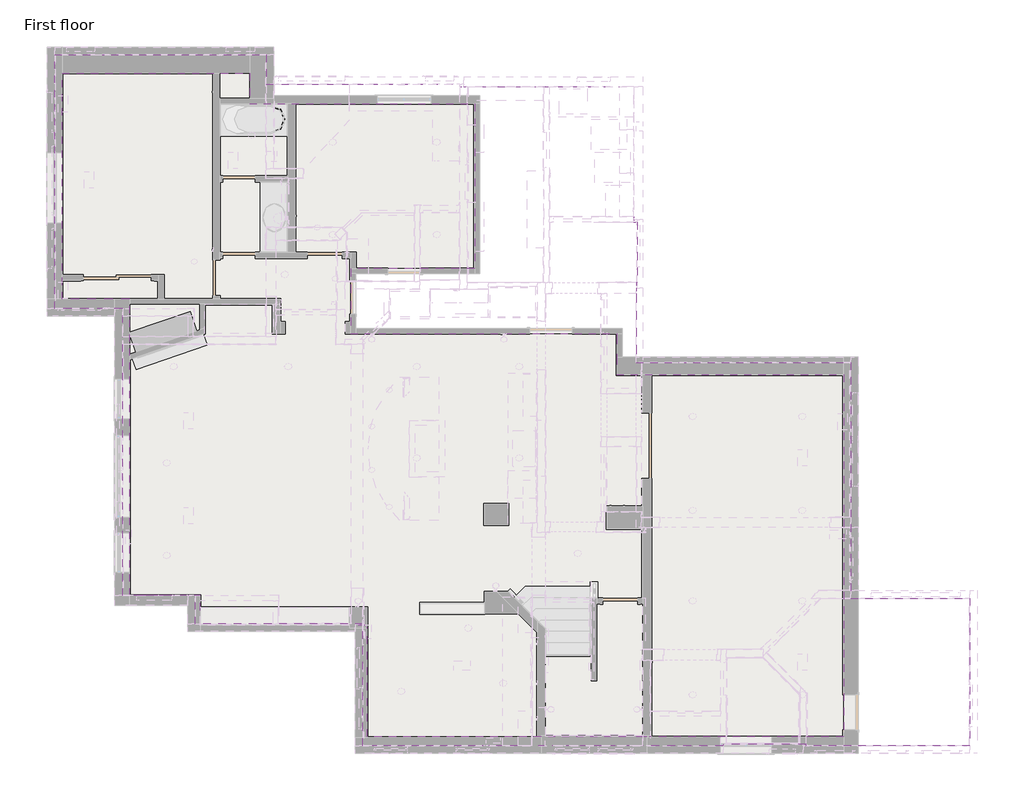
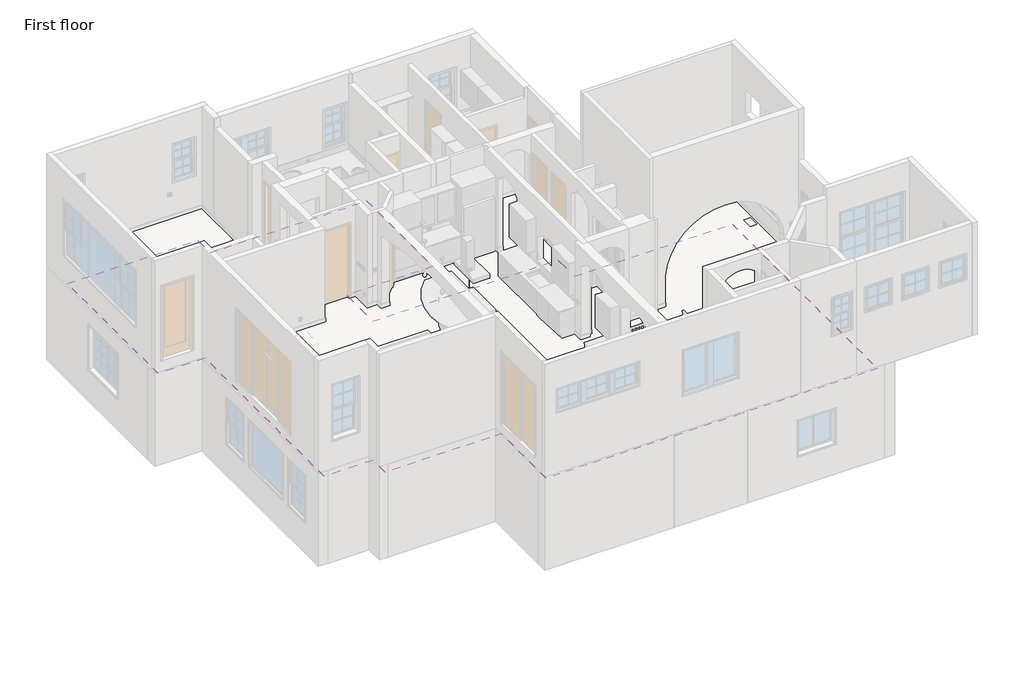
# One storey, part 9 of 14: 2 slabs, 1 covering.
"""IFC4 building model written with IfcOpenShell, lengths in millimetres."""

from ifc_helpers import new_model, si_unit, frame, origin, place, context, project, spatial, polyline, circle_curve, faceted_brep, element, save
from ifc_brep_helpers import plane_surface, revolved_surface, advanced_brep

model = new_model("IFC4")

# Units and contexts
model_context = context("Model", 3, world=origin())
ifc_project = project(units=[si_unit("LENGTHUNIT", "METRE", prefix="MILLI")], contexts=[model_context])

# Site, building, storey
site = spatial("IfcSite", under=ifc_project)
building = spatial("IfcBuilding", under=site)
storey = spatial("IfcBuildingStorey", under=building, Name="First floor", Elevation=0.0)

# Covering
placement = place(None, origin())
element("IfcCovering", 1, ObjectType="Ceiling_13.5\"", at=placement, inside=storey, context=model_context, shape_type="AdvancedBrep", body=[
    advanced_brep(
    [(-2279.65, 14058.9, 2908.3), (-2279.65, 14719.3, 2908.3), (-6337.3, 14719.3, 2908.3), (-6337.3, 9829.8, 2908.3), (-4876.8, 9829.8, 2908.3), (-4876.8, 3416.3, 2908.3), (-3352.8, 3416.3, 2908.3), (-3352.8, 2768.6, 2908.3), (-127.0, 2768.6, 2908.3), (254.0176056, 2768.6, 2908.3), (254.0176056, 2705.1, 2908.3), (254.0176056, 355.6, 2908.3), (4019.5496704, 355.6, 2908.3), (5841.9131509, 355.6, 2908.3), (6305.55, 355.6, 2908.3), (10553.7, 355.6, 2908.3), (10553.7, 8191.5, 2908.3), (5651.5, 8191.5, 2908.3), (5651.5, 9080.5, 2908.3), (-101.6, 9080.5, 2908.3), (-101.6, 10490.2, 2908.3), (2578.1, 10490.2, 2908.3), (2578.1, 14058.9, 2908.3), (4102.1, 381.0, 2908.3), (4102.1, 3721.1, 2908.3), (5092.7, 3721.1, 2908.3), (5092.7, 3352.8, 2908.3), (6210.3, 3352.8, 2908.3), (6210.3, 381.0, 2908.3), (-2279.65, 14719.3, 2565.4), (-2279.65, 14058.9, 2565.4), (2578.1, 14058.9, 2565.4), (2578.1, 10490.2, 2565.4), (-101.6, 10490.2, 2565.4), (-101.6, 9080.5, 2565.4), (5651.5, 9080.5, 2565.4), (5651.5, 8191.5, 2565.4), (10553.7, 8191.5, 2565.4), (10553.7, 355.6, 2565.4), (6400.8, 355.6, 2565.4), (6305.55, 355.6, 2565.4), (5841.9131509, 355.6, 2565.4), (4019.5496704, 355.6, 2565.4), (254.0176056, 355.6, 2565.4), (254.0176056, 2768.6, 2565.4), (-127.0, 2768.6, 2565.4), (-3352.8, 2768.6, 2565.4), (-3352.8, 3416.3, 2565.4), (-4876.8, 3416.3, 2565.4), (-4876.8, 9829.8, 2565.4), (-6337.3, 9829.8, 2565.4), (-6337.3, 14719.3, 2565.4), (9728.2, 7289.8266421, 2565.4), (9601.2, 7289.8266421, 2565.4), (9728.2, 5257.8266421, 2565.4), (9601.2, 5257.8266421, 2565.4), (9728.2, 3302.0266421, 2565.4), (9601.2, 3302.0266421, 2565.4), (9728.2, 1270.0266421, 2565.4), (9601.2, 1270.0266421, 2565.4), (7353.3, 7289.8266421, 2565.4), (7226.3, 7289.8266421, 2565.4), (7353.3, 5257.8266421, 2565.4), (7226.3, 5257.8266421, 2565.4), (7353.3, 3302.0266421, 2565.4), (7226.3, 3302.0266421, 2565.4), (7353.3, 1270.0266421, 2565.4), (7226.3, 1270.0266421, 2565.4), (4876.8, 4330.7, 2565.4), (4749.8, 4330.7, 2565.4), (3606.8, 6388.1, 2565.4), (3479.8, 6388.1, 2565.4), (1397.0, 6388.1, 2565.4), (1270.0, 6388.1, 2565.4), (3606.8, 8369.3, 2565.4), (3479.8, 8369.3, 2565.4), (1397.0, 8369.3, 2565.4), (1270.0, 8369.3, 2565.4), (-1390.65, 8369.3, 2565.4), (-1517.65, 8369.3, 2565.4), (-3860.8, 8369.3, 2565.4), (-3987.8, 8369.3, 2565.4), (-4013.2, 6286.5, 2565.4), (-4140.2, 6286.5, 2565.4), (-4013.2, 4279.9, 2565.4), (-4140.2, 4279.9, 2565.4), (2501.8996704, 2711.4620454, 2565.4), (2374.8996704, 2711.4620454, 2565.4), (3263.8996704, 1517.65, 2565.4), (3136.8996704, 1517.65, 2565.4), (1054.1176056, 1339.85, 2565.4), (927.1176056, 1339.85, 2565.4), (-1460.5, 10363.2, 2565.4), (-1587.5, 10363.2, 2565.4), (-419.1, 11226.8, 2565.4), (-546.1, 11226.8, 2565.4), (1828.8, 11226.8, 2565.4), (1701.8, 11226.8, 2565.4), (-419.1, 13220.7, 2565.4), (-546.1, 13220.7, 2565.4), (1828.8, 13220.7, 2565.4), (1701.8, 13220.7, 2565.4), (-2171.7, 13373.1, 2565.4), (-2298.7, 13373.1, 2565.4), (4102.1, 3721.1, 2565.4), (4102.1, 381.0, 2565.4), (6210.3, 381.0, 2565.4), (6210.3, 3352.8, 2565.4), (5092.7, 3352.8, 2565.4), (5092.7, 3721.1, 2565.4), (9601.2, 7289.8266421, 2603.5), (9728.2, 7289.8266421, 2603.5), (9601.2, 5257.8266421, 2603.5), (9728.2, 5257.8266421, 2603.5), (9601.2, 3302.0266421, 2603.5), (9728.2, 3302.0266421, 2603.5), (9601.2, 1270.0266421, 2603.5), (9728.2, 1270.0266421, 2603.5), (7226.3, 7289.8266421, 2603.5), (7353.3, 7289.8266421, 2603.5), (7226.3, 5257.8266421, 2603.5), (7353.3, 5257.8266421, 2603.5), (7226.3, 3302.0266421, 2603.5), (7353.3, 3302.0266421, 2603.5), (7226.3, 1270.0266421, 2603.5), (7353.3, 1270.0266421, 2603.5), (4749.8, 4330.7, 2603.5), (4876.8, 4330.7, 2603.5), (3479.8, 6388.1, 2603.5), (3606.8, 6388.1, 2603.5), (1270.0, 6388.1, 2603.5), (1397.0, 6388.1, 2603.5), (3479.8, 8369.3, 2603.5), (3606.8, 8369.3, 2603.5), (1270.0, 8369.3, 2603.5), (1397.0, 8369.3, 2603.5), (-1517.65, 8369.3, 2603.5), (-1390.65, 8369.3, 2603.5), (-3987.8, 8369.3, 2603.5), (-3860.8, 8369.3, 2603.5), (-4140.2, 6286.5, 2603.5), (-4013.2, 6286.5, 2603.5), (-4140.2, 4279.9, 2603.5), (-4013.2, 4279.9, 2603.5), (2374.8996704, 2711.4620454, 2603.5), (2501.8996704, 2711.4620454, 2603.5), (3136.8996704, 1517.65, 2603.5), (3263.8996704, 1517.65, 2603.5), (927.1176056, 1339.85, 2603.5), (1054.1176056, 1339.85, 2603.5), (-1587.5, 10363.2, 2603.5), (-1460.5, 10363.2, 2603.5), (-546.1, 11226.8, 2603.5), (-419.1, 11226.8, 2603.5), (1701.8, 11226.8, 2603.5), (1828.8, 11226.8, 2603.5), (-546.1, 13220.7, 2603.5), (-419.1, 13220.7, 2603.5), (1701.8, 13220.7, 2603.5), (1828.8, 13220.7, 2603.5), (-2298.7, 13373.1, 2603.5), (-2171.7, 13373.1, 2603.5)],
    [
        (0, 1),
        (1, 2),
        (2, 3),
        (3, 4),
        (4, 5),
        (5, 6),
        (6, 7),
        (7, 8),
        (8, 9),
        (9, 10),
        (10, 11),
        (11, 12),
        (12, 13),
        (13, 14),
        (14, 15),
        (15, 16),
        (16, 17),
        (17, 18),
        (18, 19),
        (19, 20),
        (20, 21),
        (21, 22),
        (22, 0),
        (23, 24),
        (24, 25),
        (25, 26),
        (26, 27),
        (27, 28),
        (28, 23),
        (29, 30),
        (30, 31),
        (31, 32),
        (32, 33),
        (33, 34),
        (34, 35),
        (35, 36),
        (36, 37),
        (37, 38),
        (38, 39),
        (39, 40),
        (40, 41),
        (41, 42),
        (42, 43),
        (43, 44),
        (44, 45),
        (45, 46),
        (46, 47),
        (47, 48),
        (48, 49),
        (49, 50),
        (50, 51),
        (51, 29),
        (52, 53, circle_curve(frame((9664.7, 7289.8266421, 2565.4), z_axis=(0.0, 0.0, 1.0), x_axis=(1.0, 0.0, 0.0)), 63.5)),
        (53, 52, circle_curve(frame((9664.7, 7289.8266421, 2565.4), z_axis=(0.0, 0.0, 1.0), x_axis=(1.0, 0.0, 0.0)), 63.5)),
        (54, 55, circle_curve(frame((9664.7, 5257.8266421, 2565.4), z_axis=(0.0, 0.0, 1.0), x_axis=(1.0, 0.0, 0.0)), 63.5)),
        (55, 54, circle_curve(frame((9664.7, 5257.8266421, 2565.4), z_axis=(0.0, 0.0, 1.0), x_axis=(1.0, 0.0, 0.0)), 63.5)),
        (56, 57, circle_curve(frame((9664.7, 3302.0266421, 2565.4), z_axis=(0.0, 0.0, 1.0), x_axis=(1.0, 0.0, 0.0)), 63.5)),
        (57, 56, circle_curve(frame((9664.7, 3302.0266421, 2565.4), z_axis=(0.0, 0.0, 1.0), x_axis=(1.0, 0.0, 0.0)), 63.5)),
        (58, 59, circle_curve(frame((9664.7, 1270.0266421, 2565.4), z_axis=(0.0, 0.0, 1.0), x_axis=(1.0, 0.0, 0.0)), 63.5)),
        (59, 58, circle_curve(frame((9664.7, 1270.0266421, 2565.4), z_axis=(0.0, 0.0, 1.0), x_axis=(1.0, 0.0, 0.0)), 63.5)),
        (60, 61, circle_curve(frame((7289.8, 7289.8266421, 2565.4), z_axis=(0.0, 0.0, 1.0), x_axis=(1.0, 0.0, 0.0)), 63.5)),
        (61, 60, circle_curve(frame((7289.8, 7289.8266421, 2565.4), z_axis=(0.0, 0.0, 1.0), x_axis=(1.0, 0.0, 0.0)), 63.5)),
        (62, 63, circle_curve(frame((7289.8, 5257.8266421, 2565.4), z_axis=(0.0, 0.0, 1.0), x_axis=(1.0, 0.0, 0.0)), 63.5)),
        (63, 62, circle_curve(frame((7289.8, 5257.8266421, 2565.4), z_axis=(0.0, 0.0, 1.0), x_axis=(1.0, 0.0, 0.0)), 63.5)),
        (64, 65, circle_curve(frame((7289.8, 3302.0266421, 2565.4), z_axis=(0.0, 0.0, 1.0), x_axis=(1.0, 0.0, 0.0)), 63.5)),
        (65, 64, circle_curve(frame((7289.8, 3302.0266421, 2565.4), z_axis=(0.0, 0.0, 1.0), x_axis=(1.0, 0.0, 0.0)), 63.5)),
        (66, 67, circle_curve(frame((7289.8, 1270.0266421, 2565.4), z_axis=(0.0, 0.0, 1.0), x_axis=(1.0, 0.0, 0.0)), 63.5)),
        (67, 66, circle_curve(frame((7289.8, 1270.0266421, 2565.4), z_axis=(0.0, 0.0, 1.0), x_axis=(1.0, 0.0, 0.0)), 63.5)),
        (68, 69, circle_curve(frame((4813.3, 4330.7, 2565.4), z_axis=(0.0, 0.0, 1.0), x_axis=(1.0, 0.0, 0.0)), 63.5)),
        (69, 68, circle_curve(frame((4813.3, 4330.7, 2565.4), z_axis=(0.0, 0.0, 1.0), x_axis=(1.0, 0.0, 0.0)), 63.5)),
        (70, 71, circle_curve(frame((3543.3, 6388.1, 2565.4), z_axis=(0.0, 0.0, 1.0), x_axis=(1.0, 0.0, 0.0)), 63.5)),
        (71, 70, circle_curve(frame((3543.3, 6388.1, 2565.4), z_axis=(0.0, 0.0, 1.0), x_axis=(1.0, 0.0, 0.0)), 63.5)),
        (72, 73, circle_curve(frame((1333.5, 6388.1, 2565.4), z_axis=(0.0, 0.0, 1.0), x_axis=(1.0, 0.0, 0.0)), 63.5)),
        (73, 72, circle_curve(frame((1333.5, 6388.1, 2565.4), z_axis=(0.0, 0.0, 1.0), x_axis=(1.0, 0.0, 0.0)), 63.5)),
        (74, 75, circle_curve(frame((3543.3, 8369.3, 2565.4), z_axis=(0.0, 0.0, 1.0), x_axis=(1.0, 0.0, 0.0)), 63.5)),
        (75, 74, circle_curve(frame((3543.3, 8369.3, 2565.4), z_axis=(0.0, 0.0, 1.0), x_axis=(1.0, 0.0, 0.0)), 63.5)),
        (76, 77, circle_curve(frame((1333.5, 8369.3, 2565.4), z_axis=(0.0, 0.0, 1.0), x_axis=(1.0, 0.0, 0.0)), 63.5)),
        (77, 76, circle_curve(frame((1333.5, 8369.3, 2565.4), z_axis=(0.0, 0.0, 1.0), x_axis=(1.0, 0.0, 0.0)), 63.5)),
        (78, 79, circle_curve(frame((-1454.15, 8369.3, 2565.4), z_axis=(0.0, 0.0, 1.0), x_axis=(1.0, 0.0, 0.0)), 63.5)),
        (79, 78, circle_curve(frame((-1454.15, 8369.3, 2565.4), z_axis=(0.0, 0.0, 1.0), x_axis=(1.0, 0.0, 0.0)), 63.5)),
        (80, 81, circle_curve(frame((-3924.3, 8369.3, 2565.4), z_axis=(0.0, 0.0, 1.0), x_axis=(1.0, 0.0, 0.0)), 63.5)),
        (81, 80, circle_curve(frame((-3924.3, 8369.3, 2565.4), z_axis=(0.0, 0.0, 1.0), x_axis=(1.0, 0.0, 0.0)), 63.5)),
        (82, 83, circle_curve(frame((-4076.7, 6286.5, 2565.4), z_axis=(0.0, 0.0, 1.0), x_axis=(1.0, 0.0, 0.0)), 63.5)),
        (83, 82, circle_curve(frame((-4076.7, 6286.5, 2565.4), z_axis=(0.0, 0.0, 1.0), x_axis=(1.0, 0.0, 0.0)), 63.5)),
        (84, 85, circle_curve(frame((-4076.7, 4279.9, 2565.4), z_axis=(0.0, 0.0, 1.0), x_axis=(1.0, 0.0, 0.0)), 63.5)),
        (85, 84, circle_curve(frame((-4076.7, 4279.9, 2565.4), z_axis=(0.0, 0.0, 1.0), x_axis=(1.0, 0.0, 0.0)), 63.5)),
        (86, 87, circle_curve(frame((2438.3996704, 2711.4620454, 2565.4), z_axis=(0.0, 0.0, 1.0), x_axis=(1.0, 0.0, 0.0)), 63.5)),
        (87, 86, circle_curve(frame((2438.3996704, 2711.4620454, 2565.4), z_axis=(0.0, 0.0, 1.0), x_axis=(1.0, 0.0, 0.0)), 63.5)),
        (88, 89, circle_curve(frame((3200.3996704, 1517.65, 2565.4), z_axis=(0.0, 0.0, 1.0), x_axis=(1.0, 0.0, 0.0)), 63.5)),
        (89, 88, circle_curve(frame((3200.3996704, 1517.65, 2565.4), z_axis=(0.0, 0.0, 1.0), x_axis=(1.0, 0.0, 0.0)), 63.5)),
        (90, 91, circle_curve(frame((990.6176056, 1339.85, 2565.4), z_axis=(0.0, 0.0, 1.0), x_axis=(1.0, 0.0, 0.0)), 63.5)),
        (91, 90, circle_curve(frame((990.6176056, 1339.85, 2565.4), z_axis=(0.0, 0.0, 1.0), x_axis=(1.0, 0.0, 0.0)), 63.5)),
        (92, 93, circle_curve(frame((-1524.0, 10363.2, 2565.4), z_axis=(0.0, 0.0, 1.0), x_axis=(1.0, 0.0, 0.0)), 63.5)),
        (93, 92, circle_curve(frame((-1524.0, 10363.2, 2565.4), z_axis=(0.0, 0.0, 1.0), x_axis=(1.0, 0.0, 0.0)), 63.5)),
        (94, 95, circle_curve(frame((-482.6, 11226.8, 2565.4), z_axis=(0.0, 0.0, 1.0), x_axis=(1.0, 0.0, 0.0)), 63.5)),
        (95, 94, circle_curve(frame((-482.6, 11226.8, 2565.4), z_axis=(0.0, 0.0, 1.0), x_axis=(1.0, 0.0, 0.0)), 63.5)),
        (96, 97, circle_curve(frame((1765.3, 11226.8, 2565.4), z_axis=(0.0, 0.0, 1.0), x_axis=(1.0, 0.0, 0.0)), 63.5)),
        (97, 96, circle_curve(frame((1765.3, 11226.8, 2565.4), z_axis=(0.0, 0.0, 1.0), x_axis=(1.0, 0.0, 0.0)), 63.5)),
        (98, 99, circle_curve(frame((-482.6, 13220.7, 2565.4), z_axis=(0.0, 0.0, 1.0), x_axis=(1.0, 0.0, 0.0)), 63.5)),
        (99, 98, circle_curve(frame((-482.6, 13220.7, 2565.4), z_axis=(0.0, 0.0, 1.0), x_axis=(1.0, 0.0, 0.0)), 63.5)),
        (100, 101, circle_curve(frame((1765.3, 13220.7, 2565.4), z_axis=(0.0, 0.0, 1.0), x_axis=(1.0, 0.0, 0.0)), 63.5)),
        (101, 100, circle_curve(frame((1765.3, 13220.7, 2565.4), z_axis=(0.0, 0.0, 1.0), x_axis=(1.0, 0.0, 0.0)), 63.5)),
        (102, 103, circle_curve(frame((-2235.2, 13373.1, 2565.4), z_axis=(0.0, 0.0, 1.0), x_axis=(1.0, 0.0, 0.0)), 63.5)),
        (103, 102, circle_curve(frame((-2235.2, 13373.1, 2565.4), z_axis=(0.0, 0.0, 1.0), x_axis=(1.0, 0.0, 0.0)), 63.5)),
        (104, 105),
        (105, 106),
        (106, 107),
        (107, 108),
        (108, 109),
        (109, 104),
        (0, 30),
        (29, 1),
        (51, 2),
        (50, 3),
        (49, 4),
        (48, 5),
        (47, 6),
        (46, 7),
        (44, 9),
        (43, 11),
        (41, 13),
        (15, 38),
        (37, 16),
        (36, 17),
        (35, 18),
        (34, 19),
        (33, 20),
        (32, 21),
        (31, 22),
        (110, 111, circle_curve(frame((9664.7, 7289.8266421, 2603.5), z_axis=(0.0, 0.0, -1.0), x_axis=(1.0, 0.0, 0.0)), 63.5)),
        (111, 110, circle_curve(frame((9664.7, 7289.8266421, 2603.5), z_axis=(0.0, 0.0, -1.0), x_axis=(1.0, 0.0, 0.0)), 63.5)),
        (110, 53),
        (52, 111),
        (112, 113, circle_curve(frame((9664.7, 5257.8266421, 2603.5), z_axis=(0.0, 0.0, -1.0), x_axis=(1.0, 0.0, 0.0)), 63.5)),
        (113, 112, circle_curve(frame((9664.7, 5257.8266421, 2603.5), z_axis=(0.0, 0.0, -1.0), x_axis=(1.0, 0.0, 0.0)), 63.5)),
        (112, 55),
        (54, 113),
        (114, 115, circle_curve(frame((9664.7, 3302.0266421, 2603.5), z_axis=(0.0, 0.0, -1.0), x_axis=(1.0, 0.0, 0.0)), 63.5)),
        (115, 114, circle_curve(frame((9664.7, 3302.0266421, 2603.5), z_axis=(0.0, 0.0, -1.0), x_axis=(1.0, 0.0, 0.0)), 63.5)),
        (114, 57),
        (56, 115),
        (116, 117, circle_curve(frame((9664.7, 1270.0266421, 2603.5), z_axis=(0.0, 0.0, -1.0), x_axis=(1.0, 0.0, 0.0)), 63.5)),
        (117, 116, circle_curve(frame((9664.7, 1270.0266421, 2603.5), z_axis=(0.0, 0.0, -1.0), x_axis=(1.0, 0.0, 0.0)), 63.5)),
        (116, 59),
        (58, 117),
        (118, 119, circle_curve(frame((7289.8, 7289.8266421, 2603.5), z_axis=(0.0, 0.0, -1.0), x_axis=(1.0, 0.0, 0.0)), 63.5)),
        (119, 118, circle_curve(frame((7289.8, 7289.8266421, 2603.5), z_axis=(0.0, 0.0, -1.0), x_axis=(1.0, 0.0, 0.0)), 63.5)),
        (118, 61),
        (60, 119),
        (120, 121, circle_curve(frame((7289.8, 5257.8266421, 2603.5), z_axis=(0.0, 0.0, -1.0), x_axis=(1.0, 0.0, 0.0)), 63.5)),
        (121, 120, circle_curve(frame((7289.8, 5257.8266421, 2603.5), z_axis=(0.0, 0.0, -1.0), x_axis=(1.0, 0.0, 0.0)), 63.5)),
        (120, 63),
        (62, 121),
        (122, 123, circle_curve(frame((7289.8, 3302.0266421, 2603.5), z_axis=(0.0, 0.0, -1.0), x_axis=(1.0, 0.0, 0.0)), 63.5)),
        (123, 122, circle_curve(frame((7289.8, 3302.0266421, 2603.5), z_axis=(0.0, 0.0, -1.0), x_axis=(1.0, 0.0, 0.0)), 63.5)),
        (122, 65),
        (64, 123),
        (124, 125, circle_curve(frame((7289.8, 1270.0266421, 2603.5), z_axis=(0.0, 0.0, -1.0), x_axis=(1.0, 0.0, 0.0)), 63.5)),
        (125, 124, circle_curve(frame((7289.8, 1270.0266421, 2603.5), z_axis=(0.0, 0.0, -1.0), x_axis=(1.0, 0.0, 0.0)), 63.5)),
        (124, 67),
        (66, 125),
        (126, 127, circle_curve(frame((4813.3, 4330.7, 2603.5), z_axis=(0.0, 0.0, -1.0), x_axis=(1.0, 0.0, 0.0)), 63.5)),
        (127, 126, circle_curve(frame((4813.3, 4330.7, 2603.5), z_axis=(0.0, 0.0, -1.0), x_axis=(1.0, 0.0, 0.0)), 63.5)),
        (126, 69),
        (68, 127),
        (128, 129, circle_curve(frame((3543.3, 6388.1, 2603.5), z_axis=(0.0, 0.0, -1.0), x_axis=(1.0, 0.0, 0.0)), 63.5)),
        (129, 128, circle_curve(frame((3543.3, 6388.1, 2603.5), z_axis=(0.0, 0.0, -1.0), x_axis=(1.0, 0.0, 0.0)), 63.5)),
        (128, 71),
        (70, 129),
        (130, 131, circle_curve(frame((1333.5, 6388.1, 2603.5), z_axis=(0.0, 0.0, -1.0), x_axis=(1.0, 0.0, 0.0)), 63.5)),
        (131, 130, circle_curve(frame((1333.5, 6388.1, 2603.5), z_axis=(0.0, 0.0, -1.0), x_axis=(1.0, 0.0, 0.0)), 63.5)),
        (130, 73),
        (72, 131),
        (132, 133, circle_curve(frame((3543.3, 8369.3, 2603.5), z_axis=(0.0, 0.0, -1.0), x_axis=(1.0, 0.0, 0.0)), 63.5)),
        (133, 132, circle_curve(frame((3543.3, 8369.3, 2603.5), z_axis=(0.0, 0.0, -1.0), x_axis=(1.0, 0.0, 0.0)), 63.5)),
        (132, 75),
        (74, 133),
        (134, 135, circle_curve(frame((1333.5, 8369.3, 2603.5), z_axis=(0.0, 0.0, -1.0), x_axis=(1.0, 0.0, 0.0)), 63.5)),
        (135, 134, circle_curve(frame((1333.5, 8369.3, 2603.5), z_axis=(0.0, 0.0, -1.0), x_axis=(1.0, 0.0, 0.0)), 63.5)),
        (134, 77),
        (76, 135),
        (136, 137, circle_curve(frame((-1454.15, 8369.3, 2603.5), z_axis=(0.0, 0.0, -1.0), x_axis=(1.0, 0.0, 0.0)), 63.5)),
        (137, 136, circle_curve(frame((-1454.15, 8369.3, 2603.5), z_axis=(0.0, 0.0, -1.0), x_axis=(1.0, 0.0, 0.0)), 63.5)),
        (136, 79),
        (78, 137),
        (138, 139, circle_curve(frame((-3924.3, 8369.3, 2603.5), z_axis=(0.0, 0.0, -1.0), x_axis=(1.0, 0.0, 0.0)), 63.5)),
        (139, 138, circle_curve(frame((-3924.3, 8369.3, 2603.5), z_axis=(0.0, 0.0, -1.0), x_axis=(1.0, 0.0, 0.0)), 63.5)),
        (138, 81),
        (80, 139),
        (140, 141, circle_curve(frame((-4076.7, 6286.5, 2603.5), z_axis=(0.0, 0.0, -1.0), x_axis=(1.0, 0.0, 0.0)), 63.5)),
        (141, 140, circle_curve(frame((-4076.7, 6286.5, 2603.5), z_axis=(0.0, 0.0, -1.0), x_axis=(1.0, 0.0, 0.0)), 63.5)),
        (140, 83),
        (82, 141),
        (142, 143, circle_curve(frame((-4076.7, 4279.9, 2603.5), z_axis=(0.0, 0.0, -1.0), x_axis=(1.0, 0.0, 0.0)), 63.5)),
        (143, 142, circle_curve(frame((-4076.7, 4279.9, 2603.5), z_axis=(0.0, 0.0, -1.0), x_axis=(1.0, 0.0, 0.0)), 63.5)),
        (142, 85),
        (84, 143),
        (144, 145, circle_curve(frame((2438.3996704, 2711.4620454, 2603.5), z_axis=(0.0, 0.0, -1.0), x_axis=(1.0, 0.0, 0.0)), 63.5)),
        (145, 144, circle_curve(frame((2438.3996704, 2711.4620454, 2603.5), z_axis=(0.0, 0.0, -1.0), x_axis=(1.0, 0.0, 0.0)), 63.5)),
        (144, 87),
        (86, 145),
        (146, 147, circle_curve(frame((3200.3996704, 1517.65, 2603.5), z_axis=(0.0, 0.0, -1.0), x_axis=(1.0, 0.0, 0.0)), 63.5)),
        (147, 146, circle_curve(frame((3200.3996704, 1517.65, 2603.5), z_axis=(0.0, 0.0, -1.0), x_axis=(1.0, 0.0, 0.0)), 63.5)),
        (146, 89),
        (88, 147),
        (148, 149, circle_curve(frame((990.6176056, 1339.85, 2603.5), z_axis=(0.0, 0.0, -1.0), x_axis=(1.0, 0.0, 0.0)), 63.5)),
        (149, 148, circle_curve(frame((990.6176056, 1339.85, 2603.5), z_axis=(0.0, 0.0, -1.0), x_axis=(1.0, 0.0, 0.0)), 63.5)),
        (148, 91),
        (90, 149),
        (150, 151, circle_curve(frame((-1524.0, 10363.2, 2603.5), z_axis=(0.0, 0.0, -1.0), x_axis=(1.0, 0.0, 0.0)), 63.5)),
        (151, 150, circle_curve(frame((-1524.0, 10363.2, 2603.5), z_axis=(0.0, 0.0, -1.0), x_axis=(1.0, 0.0, 0.0)), 63.5)),
        (150, 93),
        (92, 151),
        (152, 153, circle_curve(frame((-482.6, 11226.8, 2603.5), z_axis=(0.0, 0.0, -1.0), x_axis=(1.0, 0.0, 0.0)), 63.5)),
        (153, 152, circle_curve(frame((-482.6, 11226.8, 2603.5), z_axis=(0.0, 0.0, -1.0), x_axis=(1.0, 0.0, 0.0)), 63.5)),
        (152, 95),
        (94, 153),
        (154, 155, circle_curve(frame((1765.3, 11226.8, 2603.5), z_axis=(0.0, 0.0, -1.0), x_axis=(1.0, 0.0, 0.0)), 63.5)),
        (155, 154, circle_curve(frame((1765.3, 11226.8, 2603.5), z_axis=(0.0, 0.0, -1.0), x_axis=(1.0, 0.0, 0.0)), 63.5)),
        (154, 97),
        (96, 155),
        (156, 157, circle_curve(frame((-482.6, 13220.7, 2603.5), z_axis=(0.0, 0.0, -1.0), x_axis=(1.0, 0.0, 0.0)), 63.5)),
        (157, 156, circle_curve(frame((-482.6, 13220.7, 2603.5), z_axis=(0.0, 0.0, -1.0), x_axis=(1.0, 0.0, 0.0)), 63.5)),
        (156, 99),
        (98, 157),
        (158, 159, circle_curve(frame((1765.3, 13220.7, 2603.5), z_axis=(0.0, 0.0, -1.0), x_axis=(1.0, 0.0, 0.0)), 63.5)),
        (159, 158, circle_curve(frame((1765.3, 13220.7, 2603.5), z_axis=(0.0, 0.0, -1.0), x_axis=(1.0, 0.0, 0.0)), 63.5)),
        (158, 101),
        (100, 159),
        (160, 161, circle_curve(frame((-2235.2, 13373.1, 2603.5), z_axis=(0.0, 0.0, -1.0), x_axis=(1.0, 0.0, 0.0)), 63.5)),
        (161, 160, circle_curve(frame((-2235.2, 13373.1, 2603.5), z_axis=(0.0, 0.0, -1.0), x_axis=(1.0, 0.0, 0.0)), 63.5)),
        (160, 103),
        (102, 161),
        (23, 105),
        (104, 24),
        (26, 108),
        (107, 27),
        (106, 28),
        (109, 25),
    ],
    [
        plane_surface(frame((-2279.65, 14173.2, 2908.3), z_axis=(0.0, 0.0, 1.0), x_axis=(0.0, 1.0, 0.0))),
        plane_surface(frame((-2279.65, 14173.2, 2565.4), z_axis=(0.0, 0.0, -1.0), x_axis=(0.0, -1.0, 0.0))),
        plane_surface(frame((-2279.65, 14058.9, 2908.3), z_axis=(1.0, 0.0, 0.0), x_axis=(0.0, 0.0, -1.0))),
        plane_surface(frame((-2279.65, 14719.3, 2908.3), z_axis=(0.0, 1.0, 0.0), x_axis=(0.0, 0.0, -1.0))),
        plane_surface(frame((-6337.3, 14719.3, 2908.3), z_axis=(-1.0, 0.0, 0.0), x_axis=(0.0, 0.0, -1.0))),
        plane_surface(frame((-6337.3, 9829.8, 2908.3), z_axis=(0.0, -1.0, 0.0), x_axis=(0.0, 0.0, -1.0))),
        plane_surface(frame((-4876.8, 9829.8, 2908.3), z_axis=(-1.0, 0.0, 0.0), x_axis=(0.0, 0.0, -1.0))),
        plane_surface(frame((-4876.8, 3416.3, 2908.3), z_axis=(0.0, -1.0, 0.0), x_axis=(0.0, 0.0, -1.0))),
        plane_surface(frame((-3352.8, 3416.3, 2908.3), z_axis=(-1.0, 0.0, 0.0), x_axis=(0.0, 0.0, -1.0))),
        plane_surface(frame((-3352.8, 2768.6, 2908.3), z_axis=(0.0, -1.0, 0.0), x_axis=(0.0, 0.0, -1.0))),
        plane_surface(frame((254.0176056, 2768.6, 2908.3), z_axis=(-1.0, 0.0, 0.0), x_axis=(0.0, 0.0, -1.0))),
        plane_surface(frame((254.0176056, 355.6, 2908.3), z_axis=(0.0, -1.0, 0.0), x_axis=(0.0, 0.0, -1.0))),
        plane_surface(frame((10553.7, 355.6, 2908.3), z_axis=(1.0, 0.0, 0.0), x_axis=(0.0, 0.0, -1.0))),
        plane_surface(frame((10553.7, 8191.5, 2908.3), z_axis=(0.0, 1.0, 0.0), x_axis=(0.0, 0.0, -1.0))),
        plane_surface(frame((5651.5, 8191.5, 2908.3), z_axis=(1.0, 0.0, 0.0), x_axis=(0.0, 0.0, -1.0))),
        plane_surface(frame((5651.5, 9080.5, 2908.3), z_axis=(0.0, 1.0, 0.0), x_axis=(0.0, 0.0, -1.0))),
        plane_surface(frame((-101.6, 9080.5, 2908.3), z_axis=(1.0, 0.0, 0.0), x_axis=(0.0, 0.0, -1.0))),
        plane_surface(frame((-101.6, 10490.2, 2908.3), z_axis=(0.0, -1.0, 0.0), x_axis=(0.0, 0.0, -1.0))),
        plane_surface(frame((2578.1, 10490.2, 2908.3), z_axis=(1.0, 0.0, 0.0), x_axis=(0.0, 0.0, -1.0))),
        plane_surface(frame((2578.1, 14058.9, 2908.3), z_axis=(0.0, 1.0, 0.0), x_axis=(0.0, 0.0, -1.0))),
        plane_surface(frame((9728.2, 7289.8266421, 2603.5), z_axis=(0.0, 0.0, -1.0), x_axis=(0.0, 1.0, 0.0))),
        revolved_surface(polyline([(9728.2, 7289.8266421, 2565.4), (9728.2, 7289.8266421, 2603.5)]), (9664.7, 7289.8266421, 2603.5), (0.0, 0.0, -1.0)),
        plane_surface(frame((9728.2, 5257.8266421, 2603.5), z_axis=(0.0, 0.0, -1.0), x_axis=(0.0, 1.0, 0.0))),
        revolved_surface(polyline([(9728.2, 5257.8266421, 2565.4), (9728.2, 5257.8266421, 2603.5)]), (9664.7, 5257.8266421, 2603.5), (0.0, 0.0, -1.0)),
        plane_surface(frame((9728.2, 3302.0266421, 2603.5), z_axis=(0.0, 0.0, -1.0), x_axis=(0.0, 1.0, 0.0))),
        revolved_surface(polyline([(9728.2, 3302.0266421, 2565.4), (9728.2, 3302.0266421, 2603.5)]), (9664.7, 3302.0266421, 2603.5), (0.0, 0.0, -1.0)),
        plane_surface(frame((9728.2, 1270.0266421, 2603.5), z_axis=(0.0, 0.0, -1.0), x_axis=(0.0, 1.0, 0.0))),
        revolved_surface(polyline([(9728.2, 1270.0266421, 2565.4), (9728.2, 1270.0266421, 2603.5)]), (9664.7, 1270.0266421, 2603.5), (0.0, 0.0, -1.0)),
        plane_surface(frame((7353.3, 7289.8266421, 2603.5), z_axis=(0.0, 0.0, -1.0), x_axis=(0.0, 1.0, 0.0))),
        revolved_surface(polyline([(7353.3, 7289.8266421, 2565.4), (7353.3, 7289.8266421, 2603.5)]), (7289.8, 7289.8266421, 2603.5), (0.0, 0.0, -1.0)),
        plane_surface(frame((7353.3, 5257.8266421, 2603.5), z_axis=(0.0, 0.0, -1.0), x_axis=(0.0, 1.0, 0.0))),
        revolved_surface(polyline([(7353.3, 5257.8266421, 2565.4), (7353.3, 5257.8266421, 2603.5)]), (7289.8, 5257.8266421, 2603.5), (0.0, 0.0, -1.0)),
        plane_surface(frame((7353.3, 3302.0266421, 2603.5), z_axis=(0.0, 0.0, -1.0), x_axis=(0.0, 1.0, 0.0))),
        revolved_surface(polyline([(7353.3, 3302.0266421, 2565.4), (7353.3, 3302.0266421, 2603.5)]), (7289.8, 3302.0266421, 2603.5), (0.0, 0.0, -1.0)),
        plane_surface(frame((7353.3, 1270.0266421, 2603.5), z_axis=(0.0, 0.0, -1.0), x_axis=(0.0, 1.0, 0.0))),
        revolved_surface(polyline([(7353.3, 1270.0266421, 2565.4), (7353.3, 1270.0266421, 2603.5)]), (7289.8, 1270.0266421, 2603.5), (0.0, 0.0, -1.0)),
        plane_surface(frame((4876.8, 4330.7, 2603.5), z_axis=(0.0, 0.0, -1.0), x_axis=(0.0, 1.0, 0.0))),
        revolved_surface(polyline([(4876.8, 4330.7, 2565.4), (4876.8, 4330.7, 2603.5)]), (4813.3, 4330.7, 2603.5), (0.0, 0.0, -1.0)),
        plane_surface(frame((3606.8, 6388.1, 2603.5), z_axis=(0.0, 0.0, -1.0), x_axis=(0.0, 1.0, 0.0))),
        revolved_surface(polyline([(3606.8, 6388.1, 2565.4), (3606.8, 6388.1, 2603.5)]), (3543.3, 6388.1, 2603.5), (0.0, 0.0, -1.0)),
        plane_surface(frame((1397.0, 6388.1, 2603.5), z_axis=(0.0, 0.0, -1.0), x_axis=(0.0, 1.0, 0.0))),
        revolved_surface(polyline([(1397.0, 6388.1, 2565.4), (1397.0, 6388.1, 2603.5)]), (1333.5, 6388.1, 2603.5), (0.0, 0.0, -1.0)),
        plane_surface(frame((3606.8, 8369.3, 2603.5), z_axis=(0.0, 0.0, -1.0), x_axis=(0.0, 1.0, 0.0))),
        revolved_surface(polyline([(3606.8, 8369.3, 2565.4), (3606.8, 8369.3, 2603.5)]), (3543.3, 8369.3, 2603.5), (0.0, 0.0, -1.0)),
        plane_surface(frame((1397.0, 8369.3, 2603.5), z_axis=(0.0, 0.0, -1.0), x_axis=(0.0, 1.0, 0.0))),
        revolved_surface(polyline([(1397.0, 8369.3, 2565.4), (1397.0, 8369.3, 2603.5)]), (1333.5, 8369.3, 2603.5), (0.0, 0.0, -1.0)),
        plane_surface(frame((-1390.65, 8369.3, 2603.5), z_axis=(0.0, 0.0, -1.0), x_axis=(0.0, 1.0, 0.0))),
        revolved_surface(polyline([(-1390.65, 8369.3, 2565.4), (-1390.65, 8369.3, 2603.5)]), (-1454.15, 8369.3, 2603.5), (0.0, 0.0, -1.0)),
        plane_surface(frame((-3860.8, 8369.3, 2603.5), z_axis=(0.0, 0.0, -1.0), x_axis=(0.0, 1.0, 0.0))),
        revolved_surface(polyline([(-3860.8, 8369.3, 2565.4), (-3860.8, 8369.3, 2603.5)]), (-3924.3, 8369.3, 2603.5), (0.0, 0.0, -1.0)),
        plane_surface(frame((-4013.2, 6286.5, 2603.5), z_axis=(0.0, 0.0, -1.0), x_axis=(0.0, 1.0, 0.0))),
        revolved_surface(polyline([(-4013.2, 6286.5, 2565.4), (-4013.2, 6286.5, 2603.5)]), (-4076.7, 6286.5, 2603.5), (0.0, 0.0, -1.0)),
        plane_surface(frame((-4013.2, 4279.9, 2603.5), z_axis=(0.0, 0.0, -1.0), x_axis=(0.0, 1.0, 0.0))),
        revolved_surface(polyline([(-4013.2, 4279.9, 2565.4), (-4013.2, 4279.9, 2603.5)]), (-4076.7, 4279.9, 2603.5), (0.0, 0.0, -1.0)),
        plane_surface(frame((2501.8996704, 2711.4620454, 2603.5), z_axis=(0.0, 0.0, -1.0), x_axis=(0.0, 1.0, 0.0))),
        revolved_surface(polyline([(2501.8996704, 2711.4620454, 2565.4), (2501.8996704, 2711.4620454, 2603.5)]), (2438.3996704, 2711.4620454, 2603.5), (0.0, 0.0, -1.0)),
        plane_surface(frame((3263.8996704, 1517.65, 2603.5), z_axis=(0.0, 0.0, -1.0), x_axis=(0.0, 1.0, 0.0))),
        revolved_surface(polyline([(3263.8996704, 1517.65, 2565.4), (3263.8996704, 1517.65, 2603.5)]), (3200.3996704, 1517.65, 2603.5), (0.0, 0.0, -1.0)),
        plane_surface(frame((1054.1176056, 1339.85, 2603.5), z_axis=(0.0, 0.0, -1.0), x_axis=(0.0, 1.0, 0.0))),
        revolved_surface(polyline([(1054.1176056, 1339.85, 2565.4), (1054.1176056, 1339.85, 2603.5)]), (990.6176056, 1339.85, 2603.5), (0.0, 0.0, -1.0)),
        plane_surface(frame((-1460.5, 10363.2, 2603.5), z_axis=(0.0, 0.0, -1.0), x_axis=(0.0, 1.0, 0.0))),
        revolved_surface(polyline([(-1460.5, 10363.2, 2565.4), (-1460.5, 10363.2, 2603.5)]), (-1524.0, 10363.2, 2603.5), (0.0, 0.0, -1.0)),
        plane_surface(frame((-419.1, 11226.8, 2603.5), z_axis=(0.0, 0.0, -1.0), x_axis=(0.0, 1.0, 0.0))),
        revolved_surface(polyline([(-419.1, 11226.8, 2565.4), (-419.1, 11226.8, 2603.5)]), (-482.6, 11226.8, 2603.5), (0.0, 0.0, -1.0)),
        plane_surface(frame((1828.8, 11226.8, 2603.5), z_axis=(0.0, 0.0, -1.0), x_axis=(0.0, 1.0, 0.0))),
        revolved_surface(polyline([(1828.8, 11226.8, 2565.4), (1828.8, 11226.8, 2603.5)]), (1765.3, 11226.8, 2603.5), (0.0, 0.0, -1.0)),
        plane_surface(frame((-419.1, 13220.7, 2603.5), z_axis=(0.0, 0.0, -1.0), x_axis=(0.0, 1.0, 0.0))),
        revolved_surface(polyline([(-419.1, 13220.7, 2565.4), (-419.1, 13220.7, 2603.5)]), (-482.6, 13220.7, 2603.5), (0.0, 0.0, -1.0)),
        plane_surface(frame((1828.8, 13220.7, 2603.5), z_axis=(0.0, 0.0, -1.0), x_axis=(0.0, 1.0, 0.0))),
        revolved_surface(polyline([(1828.8, 13220.7, 2565.4), (1828.8, 13220.7, 2603.5)]), (1765.3, 13220.7, 2603.5), (0.0, 0.0, -1.0)),
        plane_surface(frame((-2171.7, 13373.1, 2603.5), z_axis=(0.0, 0.0, -1.0), x_axis=(0.0, 1.0, 0.0))),
        revolved_surface(polyline([(-2171.7, 13373.1, 2565.4), (-2171.7, 13373.1, 2603.5)]), (-2235.2, 13373.1, 2603.5), (0.0, 0.0, -1.0)),
        plane_surface(frame((4102.1, 381.0, 2908.3), z_axis=(1.0, 0.0, 0.0), x_axis=(0.0, 0.0, -1.0))),
        plane_surface(frame((5092.7, 3352.8, 2908.3), z_axis=(0.0, -1.0, 0.0), x_axis=(0.0, 0.0, -1.0))),
        plane_surface(frame((6210.3, 3352.8, 2908.3), z_axis=(-1.0, 0.0, 0.0), x_axis=(0.0, 0.0, -1.0))),
        plane_surface(frame((5841.9131509, 355.6, 2908.3), z_axis=(0.0, -1.0, 0.0), x_axis=(0.0, 0.0, -1.0))),
        plane_surface(frame((6210.3, 381.0, 2908.3), z_axis=(0.0, 1.0, 0.0), x_axis=(0.0, 0.0, -1.0))),
        plane_surface(frame((4102.1, 3721.1, 2908.3), z_axis=(0.0, -1.0, 0.0), x_axis=(0.0, 0.0, -1.0))),
        plane_surface(frame((5092.7, 3721.1, 2908.3), z_axis=(-1.0, 0.0, 0.0), x_axis=(0.0, 0.0, -1.0))),
    ],
    [
        (0, [[1, 2, 3, 4, 5, 6, 7, 8, 9, 10, 11, 12, 13, 14, 15, 16, 17, 18, 19, 20, 21, 22, 23], [24, 25, 26, 27, 28, 29]]),
        (1, [[30, 31, 32, 33, 34, 35, 36, 37, 38, 39, 40, 41, 42, 43, 44, 45, 46, 47, 48, 49, 50, 51, 52], [53, 54], [55, 56], [57, 58], [59, 60], [61, 62], [63, 64], [65, 66], [67, 68], [69, 70], [71, 72], [73, 74], [75, 76], [77, 78], [79, 80], [81, 82], [83, 84], [85, 86], [87, 88], [89, 90], [91, 92], [93, 94], [95, 96], [97, 98], [99, 100], [101, 102], [103, 104], [105, 106, 107, 108, 109, 110]]),
        (2, [[-1, 111, -30, 112]]),
        (3, [[-2, -112, -52, 113]]),
        (4, [[-3, -113, -51, 114]]),
        (5, [[-4, -114, -50, 115]]),
        (6, [[-5, -115, -49, 116]]),
        (7, [[-6, -116, -48, 117]]),
        (8, [[-7, -117, -47, 118]]),
        (9, [[-9, -8, -118, -46, -45, 119]]),
        (10, [[-11, -10, -119, -44, 120]]),
        (11, [[-13, -12, -120, -43, -42, 121]]),
        (12, [[-16, 122, -38, 123]]),
        (13, [[-17, -123, -37, 124]]),
        (14, [[-18, -124, -36, 125]]),
        (15, [[-19, -125, -35, 126]]),
        (16, [[-20, -126, -34, 127]]),
        (17, [[-21, -127, -33, 128]]),
        (18, [[-22, -128, -32, 129]]),
        (19, [[-23, -129, -31, -111]]),
        (20, [[130, 131]]),
        (21, [[-130, 132, -53, 133]]),
        (21, [[-131, -133, -54, -132]]),
        (22, [[134, 135]]),
        (23, [[-134, 136, -55, 137]]),
        (23, [[-135, -137, -56, -136]]),
        (24, [[138, 139]]),
        (25, [[-138, 140, -57, 141]]),
        (25, [[-139, -141, -58, -140]]),
        (26, [[142, 143]]),
        (27, [[-142, 144, -59, 145]]),
        (27, [[-143, -145, -60, -144]]),
        (28, [[146, 147]]),
        (29, [[-146, 148, -61, 149]]),
        (29, [[-147, -149, -62, -148]]),
        (30, [[150, 151]]),
        (31, [[-150, 152, -63, 153]]),
        (31, [[-151, -153, -64, -152]]),
        (32, [[154, 155]]),
        (33, [[-154, 156, -65, 157]]),
        (33, [[-155, -157, -66, -156]]),
        (34, [[158, 159]]),
        (35, [[-158, 160, -67, 161]]),
        (35, [[-159, -161, -68, -160]]),
        (36, [[162, 163]]),
        (37, [[-162, 164, -69, 165]]),
        (37, [[-163, -165, -70, -164]]),
        (38, [[166, 167]]),
        (39, [[-166, 168, -71, 169]]),
        (39, [[-167, -169, -72, -168]]),
        (40, [[170, 171]]),
        (41, [[-170, 172, -73, 173]]),
        (41, [[-171, -173, -74, -172]]),
        (42, [[174, 175]]),
        (43, [[-174, 176, -75, 177]]),
        (43, [[-175, -177, -76, -176]]),
        (44, [[178, 179]]),
        (45, [[-178, 180, -77, 181]]),
        (45, [[-179, -181, -78, -180]]),
        (46, [[182, 183]]),
        (47, [[-182, 184, -79, 185]]),
        (47, [[-183, -185, -80, -184]]),
        (48, [[186, 187]]),
        (49, [[-186, 188, -81, 189]]),
        (49, [[-187, -189, -82, -188]]),
        (50, [[190, 191]]),
        (51, [[-190, 192, -83, 193]]),
        (51, [[-191, -193, -84, -192]]),
        (52, [[194, 195]]),
        (53, [[-194, 196, -85, 197]]),
        (53, [[-195, -197, -86, -196]]),
        (54, [[198, 199]]),
        (55, [[-198, 200, -87, 201]]),
        (55, [[-199, -201, -88, -200]]),
        (56, [[202, 203]]),
        (57, [[-202, 204, -89, 205]]),
        (57, [[-203, -205, -90, -204]]),
        (58, [[206, 207]]),
        (59, [[-206, 208, -91, 209]]),
        (59, [[-207, -209, -92, -208]]),
        (60, [[210, 211]]),
        (61, [[-210, 212, -93, 213]]),
        (61, [[-211, -213, -94, -212]]),
        (62, [[214, 215]]),
        (63, [[-214, 216, -95, 217]]),
        (63, [[-215, -217, -96, -216]]),
        (64, [[218, 219]]),
        (65, [[-218, 220, -97, 221]]),
        (65, [[-219, -221, -98, -220]]),
        (66, [[222, 223]]),
        (67, [[-222, 224, -99, 225]]),
        (67, [[-223, -225, -100, -224]]),
        (68, [[226, 227]]),
        (69, [[-226, 228, -101, 229]]),
        (69, [[-227, -229, -102, -228]]),
        (70, [[230, 231]]),
        (71, [[-230, 232, -103, 233]]),
        (71, [[-231, -233, -104, -232]]),
        (72, [[-24, 234, -105, 235]]),
        (73, [[-27, 236, -108, 237]]),
        (74, [[-28, -237, -107, 238]]),
        (75, [[-15, -14, -121, -41, -40, -39, -122]]),
        (76, [[-29, -238, -106, -234]]),
        (77, [[-25, -235, -110, 239]]),
        (78, [[-26, -239, -109, -236]]),
    ],
),
])

# Slabs
element("IfcSlab", 2, ObjectType="Floor_13.5\"", at=placement, inside=storey, context=model_context, shape_type="Brep", body=[
    faceted_brep([(-6496.05, 9626.6, 2908.3), (-6496.05, 15113.0, 2908.3), (-1924.05, 15113.0, 2908.3), (-1924.05, 14477.8947939, 2908.3), (2260.6, 14477.8947939, 2908.3), (2260.6, 14427.0947939, 2908.3), (2343.15, 14427.0947939, 2908.3), (6019.8, 14427.0947939, 2908.3), (6019.8, 11550.5447939, 2908.3), (6019.8, 11493.3947939, 2908.3), (6096.0, 11493.3947939, 2908.3), (6096.0, 10185.2947939, 2908.3), (6070.6, 10185.2947939, 2908.3), (6070.6, 10064.6447939, 2908.3), (6070.6, 8458.2, 2908.3), (10706.1, 8458.2, 2908.3), (10706.1, 3359.15, 2908.3), (13284.2, 3359.15, 2908.3), (13284.2, 165.1, 2908.3), (9753.6, 165.1, 2908.3), (9753.6, 203.2, 2908.3), (7956.55, 203.2, 2908.3), (7956.55, 165.1, 2908.3), (6226.3743908, 165.1, 2908.3), (165.1, 165.1, 2908.3), (165.1, 2806.7, 2908.3), (-3454.4, 2806.7, 2908.3), (-3454.4, 3416.3, 2908.3), (-5029.2, 3416.3, 2908.3), (-5029.2, 9626.6, 2908.3), (6210.3, 381.0, 2908.3), (6210.3, 3263.9, 2908.3), (5219.7, 3263.9, 2908.3), (5105.4, 3263.9, 2908.3), (4102.1, 3263.9, 2908.3), (4102.1, 381.0, 2908.3), (-6496.05, 15113.0, 3251.2), (-6496.05, 9626.6, 3251.2), (-5029.2, 9626.6, 3251.2), (-5029.2, 3416.3, 3251.2), (-3454.4, 3416.3, 3251.2), (-3454.4, 2806.7, 3251.2), (165.1, 2806.7, 3251.2), (165.1, 165.1, 3251.2), (6226.3743908, 165.1, 3251.2), (7956.55, 165.1, 3251.2), (7956.55, 203.2, 3251.2), (9753.6, 203.2, 3251.2), (9753.6, 165.1, 3251.2), (13284.2, 165.1, 3251.2), (13284.2, 3359.15, 3251.2), (10706.1, 3359.15, 3251.2), (10706.1, 8458.2, 3251.2), (6070.6, 8458.2, 3251.2), (6070.6, 9943.9947939, 3251.2), (6070.6, 10064.6447939, 3251.2), (6070.6, 10185.2947939, 3251.2), (6096.0, 10185.2947939, 3251.2), (6096.0, 11493.3947939, 3251.2), (6019.8, 11493.3947939, 3251.2), (6019.8, 11550.5447939, 3251.2), (6019.8, 11607.6947939, 3251.2), (6019.8, 14427.0947939, 3251.2), (2425.7, 14427.0947939, 3251.2), (2343.15, 14427.0947939, 3251.2), (2260.6, 14427.0947939, 3251.2), (2260.6, 14477.8947939, 3251.2), (-1924.05, 14477.8947939, 3251.2), (-1924.05, 15113.0, 3251.2), (6210.3, 3263.9, 3251.2), (6210.3, 381.0, 3251.2), (4102.1, 381.0, 3251.2), (4102.1, 3263.9, 3251.2), (6210.3, 3263.9, 3060.7), (6210.3, 3263.9, 3035.3), (5219.7, 3263.9, 3035.3), (5105.4, 3263.9, 3035.3), (5092.7, 3263.9, 3035.3), (5092.7, 3263.9, 3060.7), (6220.3210937, 3263.9, 3060.7), (6220.3210937, 3301.9716587, 3060.7), (6220.3210937, 3301.9716587, 3035.3), (6220.3210937, 3263.9, 3035.3), (5092.7, 3301.9716587, 3035.3), (5092.7, 3301.9716587, 3060.7)], [[[0, 1, 2, 3, 4, 5, 6, 7, 8, 9, 10, 11, 12, 13, 14, 15, 16, 17, 18, 19, 20, 21, 22, 23, 24, 25, 26, 27, 28, 29], [30, 31, 32, 33, 34, 35]], [[36, 37, 38, 39, 40, 41, 42, 43, 44, 45, 46, 47, 48, 49, 50, 51, 52, 53, 54, 55, 56, 57, 58, 59, 60, 61, 62, 63, 64, 65, 66, 67, 68], [69, 70, 71, 72]], [[1, 0, 37, 36]], [[2, 1, 36, 68]], [[3, 2, 68, 67]], [[4, 3, 67, 66]], [[9, 8, 7, 62, 61, 60, 59]], [[12, 11, 57, 56]], [[14, 13, 12, 56, 55, 54, 53]], [[15, 14, 53, 52]], [[16, 15, 52, 51]], [[17, 16, 51, 50]], [[18, 17, 50, 49]], [[24, 23, 44, 43]], [[25, 24, 43, 42]], [[26, 25, 42, 41]], [[27, 26, 41, 40]], [[28, 27, 40, 39]], [[29, 28, 39, 38]], [[0, 29, 38, 37]], [[5, 4, 66, 65]], [[7, 6, 5, 65, 64, 63, 62]], [[10, 9, 59, 58]], [[11, 10, 58, 57]], [[19, 18, 49, 48]], [[20, 19, 48, 47]], [[21, 20, 47, 46]], [[22, 21, 46, 45]], [[23, 22, 45, 44]], [[31, 30, 70, 69, 73, 74]], [[34, 33, 32, 31, 74, 75, 76, 77, 78, 73, 69, 72]], [[35, 34, 72, 71]], [[79, 80, 81, 82]], [[77, 83, 84, 78]], [[79, 82, 74, 73]], [[82, 81, 83, 77, 76, 75, 74]], [[81, 80, 84, 83]], [[80, 79, 73, 78, 84]], [[30, 35, 71, 70]]]),
])
element("IfcSlab", 3, ObjectType="Floor_6\"", at=placement, inside=storey, context=model_context, shape_type="Brep", body=[
    faceted_brep([(-6337.3, 9829.8, -152.4), (-6337.3, 14719.3, -152.4), (-2279.65, 14719.3, -152.4), (-2279.65, 14058.9, -152.4), (2578.1, 14058.9, -152.4), (2578.1, 10490.2, -152.4), (-101.6, 10490.2, -152.4), (-101.6, 9080.5, -152.4), (5651.5, 9080.5, -152.4), (5651.5, 8191.5, -152.4), (10553.7, 8191.5, -152.4), (10553.7, 355.6, -152.4), (6305.55, 355.6, -152.4), (4019.5496704, 355.6, -152.4), (254.0, 355.6, -152.4), (254.0, 2705.1, -152.4), (254.0, 2768.6, -152.4), (-127.0, 2768.6, -152.4), (-3352.8, 2768.6, -152.4), (-3352.8, 3416.3, -152.4), (-4876.8, 3416.3, -152.4), (-4876.8, 9062.8370609, -152.4), (-4876.8, 9115.279311, -152.4), (-4876.8, 9829.8, -152.4), (-6337.3, 9829.8, 0.0), (-4876.8, 9829.8, 0.0), (-4876.8, 9115.279311, 0.0), (-4876.8, 9062.8370609, 0.0), (-4876.8, 3416.3, 0.0), (-3352.8, 3416.3, 0.0), (-3352.8, 2768.6, 0.0), (-127.0, 2768.6, 0.0), (254.0, 2768.6, 0.0), (254.0, 355.6, 0.0), (4019.5496704, 355.6, 0.0), (6305.55, 355.6, 0.0), (6400.8, 355.6, 0.0), (10553.7, 355.6, 0.0), (10553.7, 8191.5, 0.0), (5651.5, 8191.5, 0.0), (5651.5, 9080.5, 0.0), (-101.6, 9080.5, 0.0), (-101.6, 10490.2, 0.0), (2578.1, 10490.2, 0.0), (2578.1, 14058.9, 0.0), (-2279.65, 14058.9, 0.0), (-2279.65, 14719.3, 0.0), (-6337.3, 14719.3, 0.0)], [[[0, 1, 2, 3, 4, 5, 6, 7, 8, 9, 10, 11, 12, 13, 14, 15, 16, 17, 18, 19, 20, 21, 22, 23]], [[24, 25, 26, 27, 28, 29, 30, 31, 32, 33, 34, 35, 36, 37, 38, 39, 40, 41, 42, 43, 44, 45, 46, 47]], [[1, 0, 24, 47]], [[2, 1, 47, 46]], [[3, 2, 46, 45]], [[4, 3, 45, 44]], [[5, 4, 44, 43]], [[6, 5, 43, 42]], [[7, 6, 42, 41]], [[8, 7, 41, 40]], [[9, 8, 40, 39]], [[10, 9, 39, 38]], [[11, 10, 38, 37]], [[14, 13, 12, 11, 37, 36, 35, 34, 33]], [[16, 15, 14, 33, 32]], [[18, 17, 16, 32, 31, 30]], [[19, 18, 30, 29]], [[20, 19, 29, 28]], [[23, 22, 21, 20, 28, 27, 26, 25]], [[0, 23, 25, 24]]]),
])

save(model, "model.ifc")
